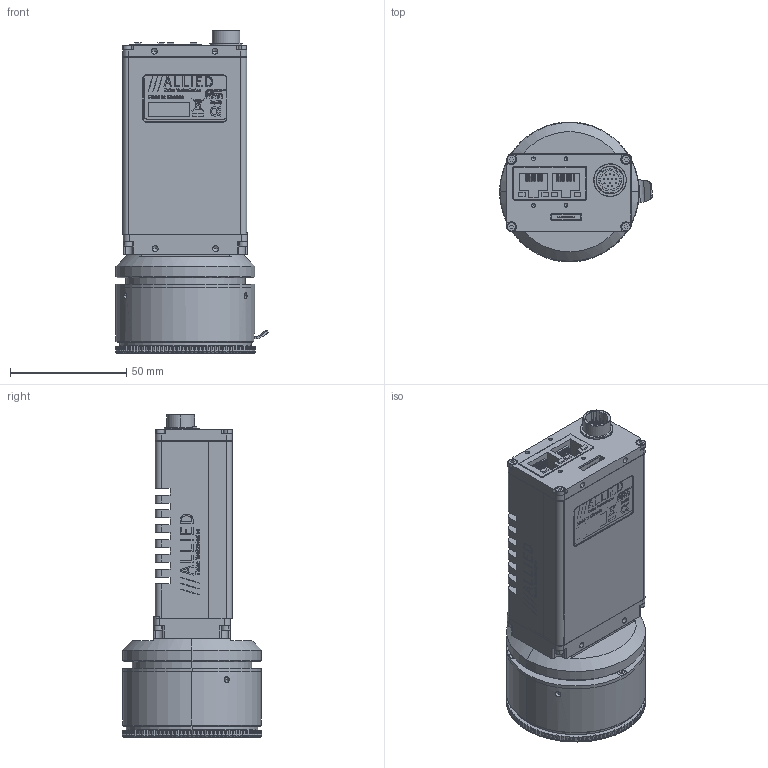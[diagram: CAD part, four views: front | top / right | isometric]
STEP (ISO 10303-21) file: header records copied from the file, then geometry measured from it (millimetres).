
FILE_DESCRIPTION (( 'STEP AP214' ), '1' );
FILE_NAME ('GX3300C FMOUNT_NEW.STEP', '2013-07-29T22:56:02', ( '' ), ( '' ), 'SwSTEP 2.0', 'SolidWorks 2013', '' );
FILE_SCHEMA (( 'AUTOMOTIVE_DESIGN' ));
Length unit declared in the file: millimetre
Products named in the file (36): 140061-SCREW SKT CAP M2x8 SS; 110113A-FMOUNT ADAPTER PLATE; 140033-SCREW SET M3x3 SS; 740102B-GX SERIES LABEL; GX3300C FMOUNT_NEW; 110052A-FMOUNT ADAPTER; 100172B - GX BODY ASSY-THERMAL; 140035-NIKON 54341 TAB; 200114A-GX MAIN PCBA; 140036 NIKON BF-1A FMOUNT CAP; 260043-HALO HFJ12-1G16ER-L12RL; 110112A-TEFLON INSERT 0.125IN DIA 0.57IN LENGTH; 200115A-GX POWER PCBA; 260048-HIROSE 3260-8S3; 140035-NIKON 54341 SCREW; 110099B-GX BOTTOM COVER-THERMAL_Finished; 440001-IR CUT FILTER 30MM DIA; 220178-KODAK KAI-08050-CBA; 100171A - GX BACK ASSY; KAI-08050 WINDOW; 110097A-GX BACK PLATE; KAI-08050 BODY; 260034-HIROSE HR10A-10R-12PB; 110111A-GX FMOUNT BASE; 110100B-GX TOP COVER-THERMAL_Finished; 110103A-GX CCD GASKET; 100176A - GX3300C FRONT ASSY FMOUNT; 110116B-THERMAL PAD 3.5MM DIA; 100114A-FMOUNT FRONT ASSY_REV B; 140067-SCREW SOCKET CAP FLAT HEAD  M3x6 BLACK; 140035-NIKON 54341 TENSION RING; 140068-SCREW FLAT HEAD M2x4 SS; 110109A-GX FRONT PLATE LF; 140035-NIKON 54341 MAIN RING; 740117B-GX3300C THERMAL LABEL PRINT; 140035-NIKON 54341 SPRING
Assembly tree (53 placements, depth 4):
  GX3300C FMOUNT_NEW
    140061-SCREW SKT CAP M2x8 SS  x4
    740117B-GX3300C THERMAL LABEL PRINT
    100176A - GX3300C FRONT ASSY FMOUNT
      110109A-GX FRONT PLATE LF
      140067-SCREW SOCKET CAP FLAT HEAD  M3x6 BLACK  x4
      110116B-THERMAL PAD 3.5MM DIA
      110103A-GX CCD GASKET
      110111A-GX FMOUNT BASE
      220178-KODAK KAI-08050-CBA
        KAI-08050 BODY
        KAI-08050 WINDOW
      440001-IR CUT FILTER 30MM DIA
      100114A-FMOUNT FRONT ASSY_REV B
        140035-NIKON 54341 SCREW  x3
        110112A-TEFLON INSERT 0.125IN DIA 0.57IN LENGTH  x3
        140036 NIKON BF-1A FMOUNT CAP
        140035-NIKON 54341 TAB
        110052A-FMOUNT ADAPTER
        140033-SCREW SET M3x3 SS  x3
        110113A-FMOUNT ADAPTER PLATE
        140035-NIKON 54341 SPRING
        140035-NIKON 54341 MAIN RING
        140068-SCREW FLAT HEAD M2x4 SS  x3
        140035-NIKON 54341 TENSION RING
    100172B - GX BODY ASSY-THERMAL
      110100B-GX TOP COVER-THERMAL_Finished
      140061-SCREW SKT CAP M2x8 SS  x4
      100171A - GX BACK ASSY
        260034-HIROSE HR10A-10R-12PB
        110097A-GX BACK PLATE
      110099B-GX BOTTOM COVER-THERMAL_Finished
      200115A-GX POWER PCBA
        260048-HIROSE 3260-8S3
      200114A-GX MAIN PCBA
        260043-HALO HFJ12-1G16ER-L12RL
    740102B-GX SERIES LABEL
Bounding box: 65.61 x 59.99 x 138.65 mm (x, y, z)
Volume: 128471.7 mm3; surface area: 106947 mm2
Topology: 90 solids, 90 shells, 4725 faces, 12323 edges, 8046 vertices
Faces by surface type: plane 2606, cylinder 979, bspline 946, cone 194
Entity records: 224163 total; most frequent: CARTESIAN_POINT 69516, ORIENTED_EDGE 23084, DIRECTION 18478, EDGE_CURVE 11542, VERTEX_POINT 7636, VECTOR 7568, LINE 7568, AXIS2_PLACEMENT_3D 5455
